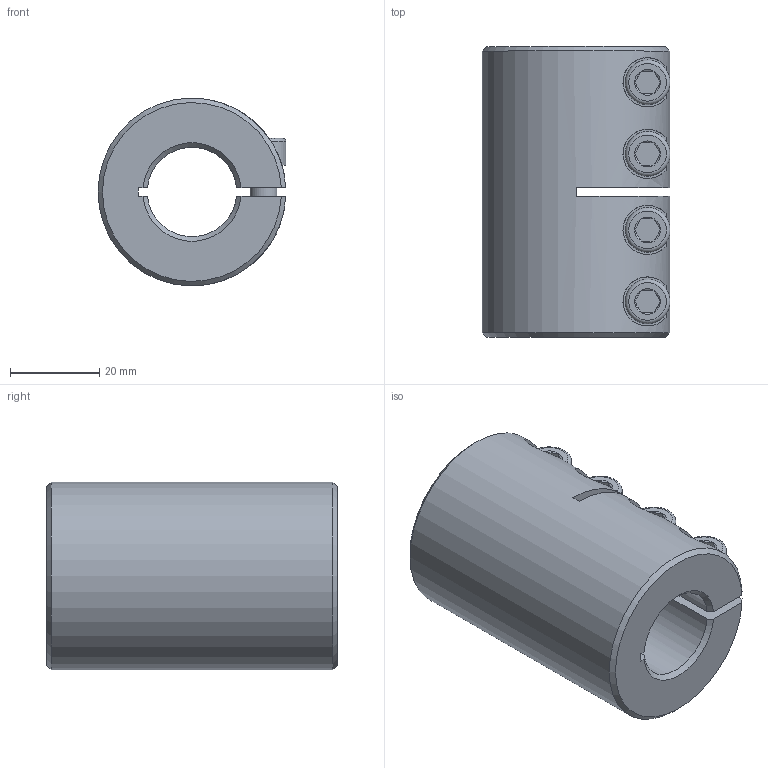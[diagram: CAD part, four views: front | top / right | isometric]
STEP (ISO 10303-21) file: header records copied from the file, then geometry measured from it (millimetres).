
FILE_DESCRIPTION( ( 'Unknown' ), '1' );
FILE_NAME( 'K:/Konstruktion/Fertigungszeichnungen/Schalenkupplung/KBST/KBST-20.stp', 'Unknown', ( 'Unknown' ), ( 'Unknown' ), 'PSStep 16.0.42', 'Unknown', ' ' );
FILE_SCHEMA( ( 'AUTOMOTIVE_DESIGN { 1 0 10303 214 1 1 1 1 }' ) );
Length unit declared in the file: millimetre
Products named in the file (3): Assem1; ISO EN DIN 4762 M6x16; KBST-20
Assembly tree (5 placements, depth 2):
  Assem1
    ISO EN DIN 4762 M6x16  x4
    KBST-20
Bounding box: 42 x 65 x 42 mm (x, y, z)
Volume: 65787.2 mm3; surface area: 20947.3 mm2
Topology: 5 solids, 5 shells, 140 faces, 278 edges, 168 vertices
Faces by surface type: plane 67, cone 34, cylinder 31, torus 8
Full cylindrical faces by diameter (mm): 4.917 x4, 5 x4, 6 x8, 7 x4, 10 x4
Entity records: 2856 total; most frequent: CARTESIAN_POINT 853, DIRECTION 298, ORIENTED_EDGE 258, EDGE_CURVE 129, AXIS2_PLACEMENT_3D 124, EDGE_LOOP 104, VERTEX_POINT 91, FACE_OUTER_BOUND 79
